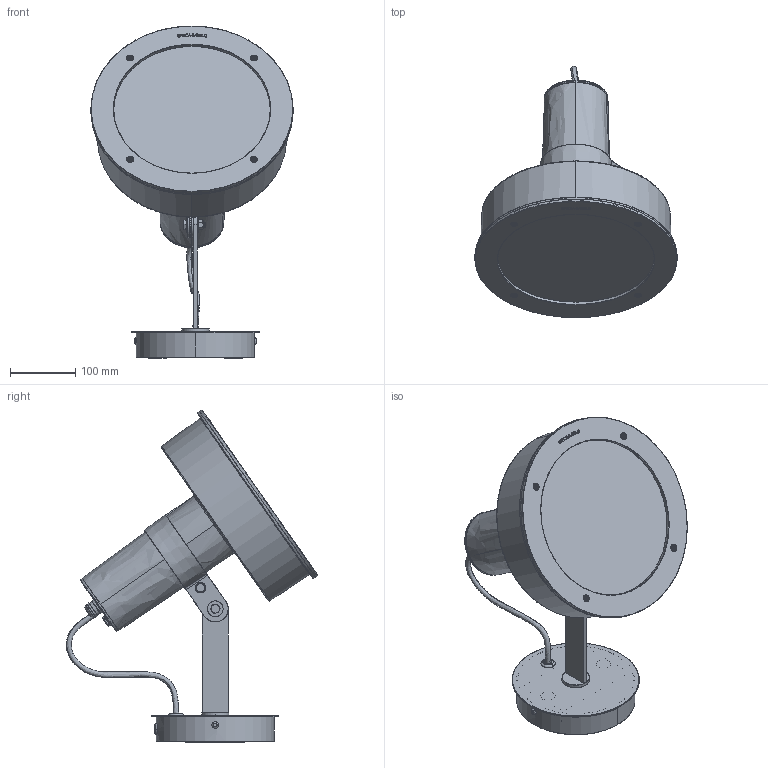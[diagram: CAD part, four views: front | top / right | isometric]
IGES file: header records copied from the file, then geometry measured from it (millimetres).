
Start section: SolidWorks IGES file using analytic representation for surfaces
Global section: file name: C:\SANTACOLE_PDM\Proyectos Catálogo\PROD-P12-019 -- ARNE PROYECTOR LED\6_Técnico comercial\3D WEB\IGES\Arne aplique 1.IGS; native system: SolidWorks 2013; preprocessor: SolidWorks 2013; author: jordi.munoz; date: 150513.132421; units: millimetre
Bounding box: 310 x 385.21 x 508.44 mm (x, y, z)
Surface area: 856859.6 mm2 (no closed solid volume)
Topology: 0 solids, 0 shells, 2609 faces, 23207 edges, 23039 vertices
Faces by surface type: bspline 1723, revolution 886
